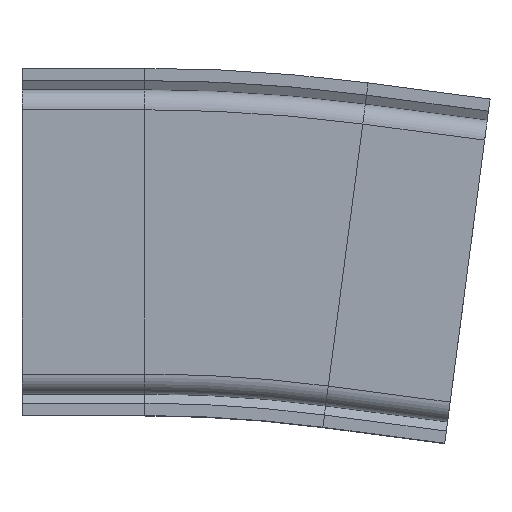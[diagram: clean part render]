
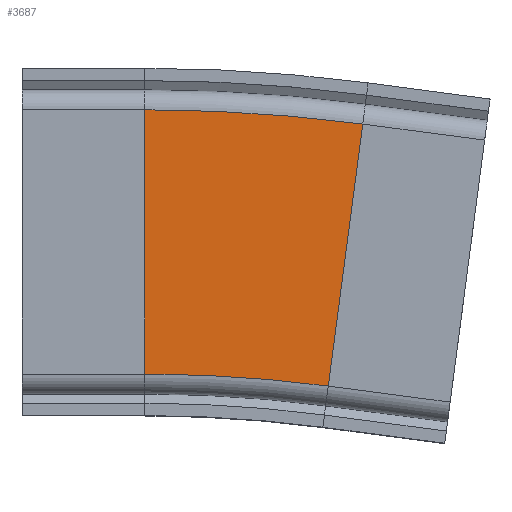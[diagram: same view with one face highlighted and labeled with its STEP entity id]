
A CAD part, top view. The second image highlights one B-rep face of the part: STEP entity #3687.
In plain terms, the highlighted planar face has unit normal (0, 0, 1).
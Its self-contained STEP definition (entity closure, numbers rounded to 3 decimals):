
#55 = ORIENTED_EDGE ( 'NONE', *, *, #3019, .T. ) ;
#145 = DIRECTION ( 'NONE',  ( 0., 0., 1. ) ) ;
#245 = VECTOR ( 'NONE', #4187, 1000. ) ;
#749 = CARTESIAN_POINT ( 'NONE',  ( 40., 0., 42.5 ) ) ;
#829 = CARTESIAN_POINT ( 'NONE',  ( 99.65, -46.91, 42.5 ) ) ;
#860 = LINE ( 'NONE', #829, #3572 ) ;
#953 = VERTEX_POINT ( 'NONE', #1304 ) ;
#1097 = PLANE ( 'NONE',  #1299 ) ;
#1195 = LINE ( 'NONE', #749, #245 ) ;
#1299 = AXIS2_PLACEMENT_3D ( 'NONE', #1526, #1450, #5415 ) ;
#1304 = CARTESIAN_POINT ( 'NONE',  ( 40., -43., 42.5 ) ) ;
#1450 = DIRECTION ( 'NONE',  ( 0., 0., -1. ) ) ;
#1526 = CARTESIAN_POINT ( 'NONE',  ( 99.65, -46.91, 42.5 ) ) ;
#1538 = VERTEX_POINT ( 'NONE', #4909 ) ;
#1549 = AXIS2_PLACEMENT_3D ( 'NONE', #1778, #2651, #1767 ) ;
#1716 = DIRECTION ( 'NONE',  ( 0.131, 0.991, 0. ) ) ;
#1767 = DIRECTION ( 'NONE',  ( 1., 0., 0. ) ) ;
#1778 = CARTESIAN_POINT ( 'NONE',  ( 40., -500., 42.5 ) ) ;
#1855 = CARTESIAN_POINT ( 'NONE',  ( 40., -500., 42.5 ) ) ;
#1870 = EDGE_CURVE ( 'NONE', #5173, #953, #1195, .T. ) ;
#2411 = CIRCLE ( 'NONE', #3204, 543. ) ;
#2651 = DIRECTION ( 'NONE',  ( 0., 0., 1. ) ) ;
#2964 = CARTESIAN_POINT ( 'NONE',  ( 40., 43., 42.5 ) ) ;
#2978 = ORIENTED_EDGE ( 'NONE', *, *, #4806, .F. ) ;
#3019 = EDGE_CURVE ( 'NONE', #1538, #5173, #2411, .T. ) ;
#3204 = AXIS2_PLACEMENT_3D ( 'NONE', #1855, #145, #4942 ) ;
#3266 = CARTESIAN_POINT ( 'NONE',  ( 99.65, -46.91, 42.5 ) ) ;
#3302 = CIRCLE ( 'NONE', #1549, 457. ) ;
#3470 = ORIENTED_EDGE ( 'NONE', *, *, #1870, .T. ) ;
#3572 = VECTOR ( 'NONE', #1716, 1000. ) ;
#3624 = VERTEX_POINT ( 'NONE', #3266 ) ;
#3687 = ADVANCED_FACE ( 'NONE', ( #5005 ), #1097, .F. ) ;
#4187 = DIRECTION ( 'NONE',  ( 0., -1., 0. ) ) ;
#4673 = EDGE_LOOP ( 'NONE', ( #3470, #2978, #4692, #55 ) ) ;
#4692 = ORIENTED_EDGE ( 'NONE', *, *, #5637, .T. ) ;
#4806 = EDGE_CURVE ( 'NONE', #3624, #953, #3302, .T. ) ;
#4909 = CARTESIAN_POINT ( 'NONE',  ( 110.876, 38.355, 42.5 ) ) ;
#4942 = DIRECTION ( 'NONE',  ( 1., 0., 0. ) ) ;
#5005 = FACE_OUTER_BOUND ( 'NONE', #4673, .T. ) ;
#5173 = VERTEX_POINT ( 'NONE', #2964 ) ;
#5415 = DIRECTION ( 'NONE',  ( -1., 0., 0. ) ) ;
#5637 = EDGE_CURVE ( 'NONE', #3624, #1538, #860, .T. ) ;
